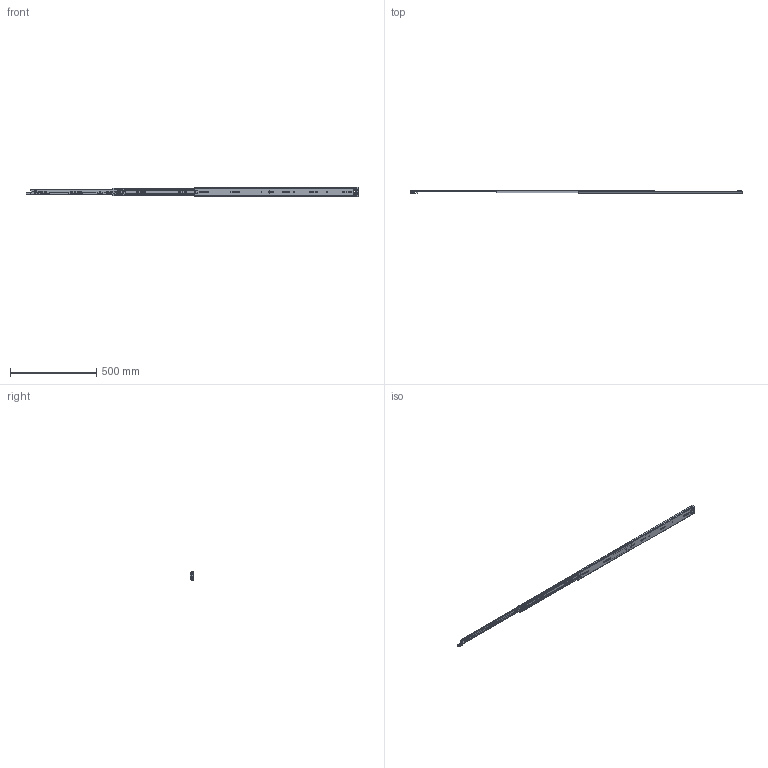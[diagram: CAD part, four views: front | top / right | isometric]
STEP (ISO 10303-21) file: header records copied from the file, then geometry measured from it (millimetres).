
FILE_DESCRIPTION((''),'2;1');
FILE_NAME('KP-57-01ZUZHUANGTU-38_ASM','2023-04-01T',('jishu015'),(''),'PRO/ENGINEER BY PARAMETRIC TECHNOLOGY CORPORATION, 2010280','PRO/ENGINEER BY PARAMETRIC TECHNOLOGY CORPORATION, 2010280','');
FILE_SCHEMA(('CONFIG_CONTROL_DESIGN'));
Products named in the file (22): KP-57-01WEIKE-18_______; 1057WEIJIAO_______; WAIKE______ASM; KP-57-01ZHONGGUI-18_______; ZHONGGUIPEIJIAN-11_____; ZHONGGUISUOKOU-11_____; KP-57-01ZHONGGUI-18________ASM; 1057XIAOZHUJIA_______; 1057-5-6GANZHU_______; 1057XIAOZHUJIA-14GE________ASM; KP-57-01NEIGUI-18_______; PJ-57-08_____; DIAOPIAN-11_____; 50XINSUOKOU-1_____; TANHUANG_____; 1053-3SBANJI122___; JIAO11___; KP-57-01NEIGUI-18________ASM; 1053ZHUTIAO-175___________; 53-5-6GANZHU___________; 1053ZHUTIAO-175MM______ASM; KP-57-01ZUZHUANGTU-38_ASM
Assembly tree (105 placements, depth 3):
  KP-57-01ZUZHUANGTU-38_ASM
    WAIKE______ASM
      KP-57-01WEIKE-18_______
      1057WEIJIAO_______
    KP-57-01ZHONGGUI-18________ASM
      KP-57-01ZHONGGUI-18_______
      ZHONGGUIPEIJIAN-11_____
      ZHONGGUISUOKOU-11_____
    1057XIAOZHUJIA-14GE________ASM
      1057XIAOZHUJIA_______
      1057-5-6GANZHU_______  x68
    KP-57-01NEIGUI-18________ASM
      KP-57-01NEIGUI-18_______
      PJ-57-08_____
      DIAOPIAN-11_____
      50XINSUOKOU-1_____
      TANHUANG_____
      1053-3SBANJI122___
      JIAO11___
    1053ZHUTIAO-175MM______ASM  x2
      1053ZHUTIAO-175___________
      53-5-6GANZHU___________
Bounding box: 1926.92 x 19 x 57.67 mm (x, y, z)
Volume: 417014 mm3; surface area: 455387.4 mm2
Topology: 120 solids, 120 shells, 2904 faces, 8396 edges, 5231 vertices
Faces by surface type: cylinder 1270, plane 1157, sphere 215, bspline 130, cone 84, torus 25, extrusion 23
Entity records: 93232 total; most frequent: CARTESIAN_POINT 22868, ORIENTED_EDGE 14896, DIRECTION 14511, EDGE_CURVE 7448, AXIS2_PLACEMENT_3D 5021, VERTEX_POINT 4811, VECTOR 4469, LINE 4446
